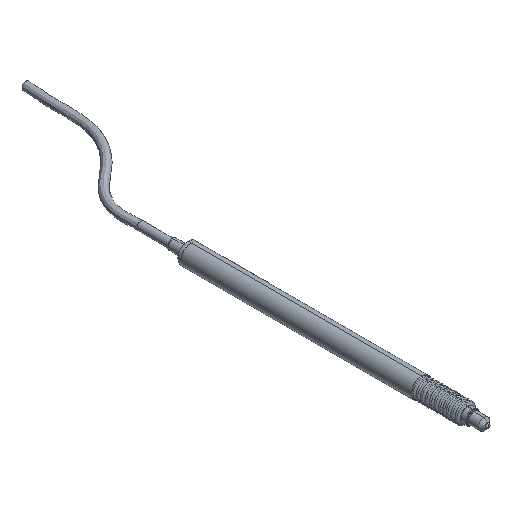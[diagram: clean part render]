
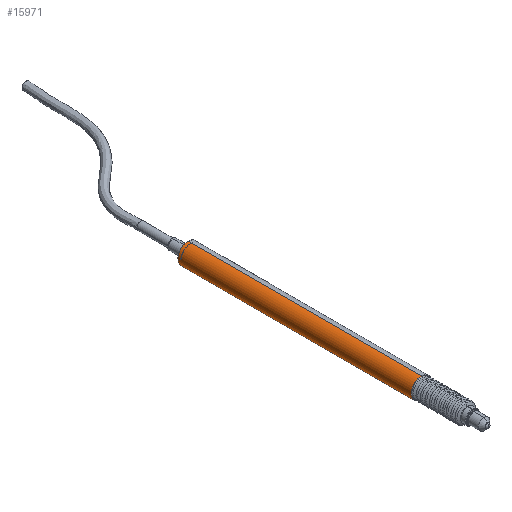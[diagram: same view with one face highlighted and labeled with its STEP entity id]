
A CAD part, isometric view. The second image highlights one B-rep face of the part: STEP entity #15971.
In plain terms, the highlighted cylindrical face has radius 4 mm (diameter 8 mm), a partial arc.
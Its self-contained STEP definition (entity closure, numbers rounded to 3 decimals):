
#3639=DIRECTION('',(0.,-1.,0.));
#3640=VECTOR('',#3639,91.45);
#3641=CARTESIAN_POINT('',(0.,0.95,
4.));
#3642=LINE('',#3641,#3640);
#3643=DIRECTION('',(0.,1.,0.));
#3644=VECTOR('',#3643,91.45);
#3645=CARTESIAN_POINT('',(0.,-90.5,-4.));
#3646=LINE('',#3645,#3644);
#3647=CARTESIAN_POINT('',(0.,0.95,0.));
#3648=DIRECTION('',(0.,1.,0.));
#3649=DIRECTION('',(0.,0.,-1.));
#3650=AXIS2_PLACEMENT_3D('',#3647,#3648,#3649);
#3652=CARTESIAN_POINT('',(0.,-90.5,0.));
#3653=DIRECTION('',(0.,-1.,0.));
#3654=DIRECTION('',(0.,0.,1.));
#3655=AXIS2_PLACEMENT_3D('',#3652,#3653,#3654);
#14381=CARTESIAN_POINT('',(0.,0.95,-4.));
#14382=CARTESIAN_POINT('',(0.,0.95,4.));
#14383=VERTEX_POINT('',#14381);
#14384=VERTEX_POINT('',#14382);
#14401=CARTESIAN_POINT('',(0.,-90.5,4.));
#14402=CARTESIAN_POINT('',(0.,-90.5,-4.));
#14403=VERTEX_POINT('',#14401);
#14404=VERTEX_POINT('',#14402);
#15958=CARTESIAN_POINT('',(0.,4.425,0.));
#15959=DIRECTION('',(0.,-1.,0.));
#15960=DIRECTION('',(0.,0.,1.));
#15961=AXIS2_PLACEMENT_3D('',#15958,#15959,#15960);
#15962=CYLINDRICAL_SURFACE('',#15961,4.);
#15963=ORIENTED_EDGE('',*,*,#14621,.T.);
#15965=ORIENTED_EDGE('',*,*,#15964,.T.);
#15966=ORIENTED_EDGE('',*,*,#14617,.T.);
#15968=ORIENTED_EDGE('',*,*,#15967,.T.);
#15969=EDGE_LOOP('',(#15963,#15965,#15966,#15968));
#15970=FACE_OUTER_BOUND('',#15969,.F.);
#3651=CIRCLE('',#3650,4.);
#3656=CIRCLE('',#3655,4.);
#14617=EDGE_CURVE('',#14404,#14383,#3646,.T.);
#14621=EDGE_CURVE('',#14384,#14403,#3642,.T.);
#15964=EDGE_CURVE('',#14403,#14404,#3656,.T.);
#15967=EDGE_CURVE('',#14383,#14384,#3651,.T.);
#15971=ADVANCED_FACE('',(#15970),#15962,.T.);
